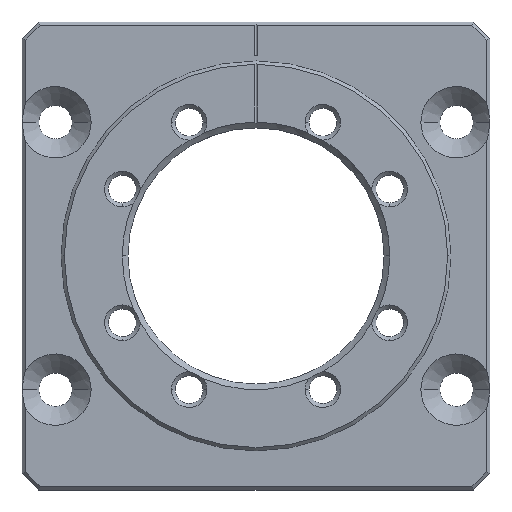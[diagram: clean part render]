
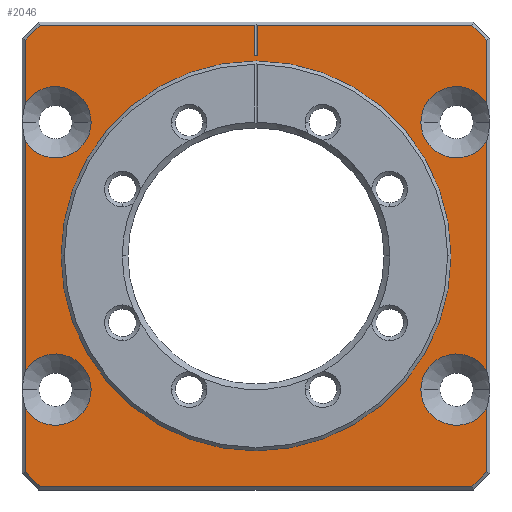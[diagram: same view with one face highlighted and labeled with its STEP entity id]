
A CAD part, top view. The second image highlights one B-rep face of the part: STEP entity #2046.
In plain terms, the highlighted planar face has unit normal (0, 0, 1).
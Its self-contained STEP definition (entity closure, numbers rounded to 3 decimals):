
#533=CARTESIAN_POINT('',(0.,0.,2.5));
#534=DIRECTION('',(0.,0.,1.));
#535=DIRECTION('',(1.,0.,0.));
#536=AXIS2_PLACEMENT_3D('',#533,#534,#535);
#538=CARTESIAN_POINT('',(0.,0.,2.5));
#539=DIRECTION('',(0.,0.,1.));
#540=DIRECTION('',(-1.,0.,0.));
#541=AXIS2_PLACEMENT_3D('',#538,#539,#540);
#543=CARTESIAN_POINT('',(18.,12.,2.5));
#544=DIRECTION('',(0.,0.,-1.));
#545=DIRECTION('',(-1.,0.,0.));
#546=AXIS2_PLACEMENT_3D('',#543,#544,#545);
#548=CARTESIAN_POINT('',(18.,12.,2.5));
#549=DIRECTION('',(0.,0.,-1.));
#550=DIRECTION('',(0.844,-0.537,0.));
#551=AXIS2_PLACEMENT_3D('',#548,#549,#550);
#553=DIRECTION('',(0.,1.,0.));
#554=VECTOR('',#553,20.565);
#555=CARTESIAN_POINT('',(20.7,-10.283,2.5));
#556=LINE('',#555,#554);
#557=CARTESIAN_POINT('',(18.,-12.,2.5));
#558=DIRECTION('',(0.,0.,-1.));
#559=DIRECTION('',(-1.,0.,0.));
#560=AXIS2_PLACEMENT_3D('',#557,#558,#559);
#562=CARTESIAN_POINT('',(18.,-12.,2.5));
#563=DIRECTION('',(0.,0.,-1.));
#564=DIRECTION('',(0.844,-0.537,0.));
#565=AXIS2_PLACEMENT_3D('',#562,#563,#564);
#567=DIRECTION('',(0.,1.,0.));
#568=VECTOR('',#567,5.658);
#569=CARTESIAN_POINT('',(20.7,-19.376,2.5));
#570=LINE('',#569,#568);
#571=DIRECTION('',(0.707,0.707,0.));
#572=VECTOR('',#571,1.873);
#573=CARTESIAN_POINT('',(19.376,-20.7,2.5));
#574=LINE('',#573,#572);
#575=DIRECTION('',(1.,0.,0.));
#576=VECTOR('',#575,38.751);
#577=CARTESIAN_POINT('',(-19.376,-20.7,2.5));
#578=LINE('',#577,#576);
#579=DIRECTION('',(0.707,-0.707,0.));
#580=VECTOR('',#579,1.873);
#581=CARTESIAN_POINT('',(-20.7,-19.376,2.5));
#582=LINE('',#581,#580);
#583=DIRECTION('',(0.,-1.,0.));
#584=VECTOR('',#583,5.658);
#585=CARTESIAN_POINT('',(-20.7,-13.717,2.5));
#586=LINE('',#585,#584);
#587=CARTESIAN_POINT('',(-18.,-12.,2.5));
#588=DIRECTION('',(0.,0.,-1.));
#589=DIRECTION('',(1.,0.,0.));
#590=AXIS2_PLACEMENT_3D('',#587,#588,#589);
#592=CARTESIAN_POINT('',(-18.,-12.,2.5));
#593=DIRECTION('',(0.,0.,-1.));
#594=DIRECTION('',(-0.844,0.537,0.));
#595=AXIS2_PLACEMENT_3D('',#592,#593,#594);
#597=DIRECTION('',(0.,-1.,0.));
#598=VECTOR('',#597,20.565);
#599=CARTESIAN_POINT('',(-20.7,10.283,2.5));
#600=LINE('',#599,#598);
#601=CARTESIAN_POINT('',(-18.,12.,2.5));
#602=DIRECTION('',(0.,0.,-1.));
#603=DIRECTION('',(1.,0.,0.));
#604=AXIS2_PLACEMENT_3D('',#601,#602,#603);
#606=CARTESIAN_POINT('',(-18.,12.,2.5));
#607=DIRECTION('',(0.,0.,-1.));
#608=DIRECTION('',(-0.844,0.537,0.));
#609=AXIS2_PLACEMENT_3D('',#606,#607,#608);
#611=DIRECTION('',(0.,-1.,0.));
#612=VECTOR('',#611,5.658);
#613=CARTESIAN_POINT('',(-20.7,19.376,2.5));
#614=LINE('',#613,#612);
#615=DIRECTION('',(-0.707,-0.707,0.));
#616=VECTOR('',#615,1.873);
#617=CARTESIAN_POINT('',(-19.376,20.7,2.5));
#618=LINE('',#617,#616);
#619=DIRECTION('',(-1.,0.,0.));
#620=VECTOR('',#619,19.226);
#621=CARTESIAN_POINT('',(-0.15,20.7,2.5));
#622=LINE('',#621,#620);
#623=DIRECTION('',(0.,-1.,0.));
#624=VECTOR('',#623,2.7);
#625=CARTESIAN_POINT('',(-0.15,20.7,2.5));
#626=LINE('',#625,#624);
#627=DIRECTION('',(1.,0.,0.));
#628=VECTOR('',#627,0.3);
#629=CARTESIAN_POINT('',(-0.15,18.,2.5));
#630=LINE('',#629,#628);
#631=DIRECTION('',(0.,-1.,0.));
#632=VECTOR('',#631,2.7);
#633=CARTESIAN_POINT('',(0.15,20.7,2.5));
#634=LINE('',#633,#632);
#635=DIRECTION('',(-1.,0.,0.));
#636=VECTOR('',#635,19.226);
#637=CARTESIAN_POINT('',(19.376,20.7,2.5));
#638=LINE('',#637,#636);
#639=DIRECTION('',(-0.707,0.707,0.));
#640=VECTOR('',#639,1.873);
#641=CARTESIAN_POINT('',(20.7,19.376,2.5));
#642=LINE('',#641,#640);
#643=DIRECTION('',(0.,1.,0.));
#644=VECTOR('',#643,5.658);
#645=CARTESIAN_POINT('',(20.7,13.717,2.5));
#646=LINE('',#645,#644);
#656=CARTESIAN_POINT('',(20.7,13.717,2.5));
#662=CARTESIAN_POINT('',(20.7,-13.717,2.5));
#674=CARTESIAN_POINT('',(20.7,-10.283,2.5));
#676=CARTESIAN_POINT('',(20.7,10.283,2.5));
#744=CARTESIAN_POINT('',(-20.7,-13.717,2.5));
#750=CARTESIAN_POINT('',(-20.7,13.717,2.5));
#762=CARTESIAN_POINT('',(-20.7,10.283,2.5));
#764=CARTESIAN_POINT('',(-20.7,-10.283,2.5));
#1218=CARTESIAN_POINT('',(17.5,0.,2.5));
#1219=CARTESIAN_POINT('',(-17.5,0.,2.5));
#1220=VERTEX_POINT('',#1218);
#1221=VERTEX_POINT('',#1219);
#1230=CARTESIAN_POINT('',(-0.15,18.,2.5));
#1231=CARTESIAN_POINT('',(0.15,18.,2.5));
#1232=VERTEX_POINT('',#1230);
#1233=VERTEX_POINT('',#1231);
#1234=CARTESIAN_POINT('',(0.15,20.7,2.5));
#1235=VERTEX_POINT('',#1234);
#1236=CARTESIAN_POINT('',(-0.15,20.7,2.5));
#1237=VERTEX_POINT('',#1236);
#1246=CARTESIAN_POINT('',(-20.7,-19.376,2.5));
#1247=CARTESIAN_POINT('',(-19.376,-20.7,2.5));
#1248=VERTEX_POINT('',#1246);
#1249=VERTEX_POINT('',#1247);
#1252=CARTESIAN_POINT('',(19.376,-20.7,2.5));
#1253=VERTEX_POINT('',#1252);
#1256=CARTESIAN_POINT('',(20.7,-19.376,2.5));
#1257=VERTEX_POINT('',#1256);
#1262=CARTESIAN_POINT('',(20.7,19.376,2.5));
#1263=CARTESIAN_POINT('',(19.376,20.7,2.5));
#1264=VERTEX_POINT('',#1262);
#1265=VERTEX_POINT('',#1263);
#1268=CARTESIAN_POINT('',(-19.376,20.7,2.5));
#1269=CARTESIAN_POINT('',(-20.7,19.376,2.5));
#1270=VERTEX_POINT('',#1268);
#1271=VERTEX_POINT('',#1269);
#1347=VERTEX_POINT('',#656);
#1352=CARTESIAN_POINT('',(14.8,12.,2.5));
#1353=VERTEX_POINT('',#1352);
#1354=VERTEX_POINT('',#676);
#1356=VERTEX_POINT('',#674);
#1361=CARTESIAN_POINT('',(14.8,-12.,2.5));
#1362=VERTEX_POINT('',#1361);
#1363=VERTEX_POINT('',#662);
#1365=VERTEX_POINT('',#744);
#1370=CARTESIAN_POINT('',(-14.8,-12.,2.5));
#1371=VERTEX_POINT('',#1370);
#1372=VERTEX_POINT('',#764);
#1374=VERTEX_POINT('',#762);
#1379=CARTESIAN_POINT('',(-14.8,12.,2.5));
#1380=VERTEX_POINT('',#1379);
#1381=VERTEX_POINT('',#750);
#1987=CARTESIAN_POINT('',(0.,0.,2.5));
#1988=DIRECTION('',(0.,0.,1.));
#1989=DIRECTION('',(1.,0.,0.));
#1990=AXIS2_PLACEMENT_3D('',#1987,#1988,#1989);
#1991=PLANE('',#1990);
#1993=ORIENTED_EDGE('',*,*,#1992,.F.);
#1995=ORIENTED_EDGE('',*,*,#1994,.F.);
#1997=ORIENTED_EDGE('',*,*,#1996,.F.);
#1999=ORIENTED_EDGE('',*,*,#1998,.F.);
#2001=ORIENTED_EDGE('',*,*,#2000,.F.);
#2003=ORIENTED_EDGE('',*,*,#2002,.F.);
#2005=ORIENTED_EDGE('',*,*,#2004,.F.);
#2007=ORIENTED_EDGE('',*,*,#2006,.F.);
#2009=ORIENTED_EDGE('',*,*,#2008,.F.);
#2011=ORIENTED_EDGE('',*,*,#2010,.F.);
#2013=ORIENTED_EDGE('',*,*,#2012,.F.);
#2015=ORIENTED_EDGE('',*,*,#2014,.F.);
#2017=ORIENTED_EDGE('',*,*,#2016,.F.);
#2019=ORIENTED_EDGE('',*,*,#2018,.F.);
#2021=ORIENTED_EDGE('',*,*,#2020,.F.);
#2023=ORIENTED_EDGE('',*,*,#2022,.F.);
#2025=ORIENTED_EDGE('',*,*,#2024,.F.);
#2027=ORIENTED_EDGE('',*,*,#2026,.F.);
#2029=ORIENTED_EDGE('',*,*,#2028,.T.);
#2031=ORIENTED_EDGE('',*,*,#2030,.T.);
#2033=ORIENTED_EDGE('',*,*,#2032,.F.);
#2035=ORIENTED_EDGE('',*,*,#2034,.F.);
#2037=ORIENTED_EDGE('',*,*,#2036,.F.);
#2039=ORIENTED_EDGE('',*,*,#2038,.F.);
#2040=EDGE_LOOP('',(#1993,#1995,#1997,#1999,#2001,#2003,#2005,#2007,#2009,#2011,
#2013,#2015,#2017,#2019,#2021,#2023,#2025,#2027,#2029,#2031,#2033,#2035,#2037,
#2039));
#2041=FACE_OUTER_BOUND('',#2040,.F.);
#2042=ORIENTED_EDGE('',*,*,#1981,.T.);
#2043=ORIENTED_EDGE('',*,*,#1967,.T.);
#2044=EDGE_LOOP('',(#2042,#2043));
#2045=FACE_BOUND('',#2044,.F.);
#2046=ADVANCED_FACE('',(#2041,#2045),#1991,.T.);
#537=CIRCLE('',#536,17.5);
#542=CIRCLE('',#541,17.5);
#547=CIRCLE('',#546,3.2);
#552=CIRCLE('',#551,3.2);
#561=CIRCLE('',#560,3.2);
#566=CIRCLE('',#565,3.2);
#591=CIRCLE('',#590,3.2);
#596=CIRCLE('',#595,3.2);
#605=CIRCLE('',#604,3.2);
#610=CIRCLE('',#609,3.2);
#1967=EDGE_CURVE('',#1221,#1220,#542,.T.);
#1981=EDGE_CURVE('',#1220,#1221,#537,.T.);
#1992=EDGE_CURVE('',#1353,#1347,#547,.T.);
#1994=EDGE_CURVE('',#1354,#1353,#552,.T.);
#1996=EDGE_CURVE('',#1356,#1354,#556,.T.);
#1998=EDGE_CURVE('',#1362,#1356,#561,.T.);
#2000=EDGE_CURVE('',#1363,#1362,#566,.T.);
#2002=EDGE_CURVE('',#1257,#1363,#570,.T.);
#2004=EDGE_CURVE('',#1253,#1257,#574,.T.);
#2006=EDGE_CURVE('',#1249,#1253,#578,.T.);
#2008=EDGE_CURVE('',#1248,#1249,#582,.T.);
#2010=EDGE_CURVE('',#1365,#1248,#586,.T.);
#2012=EDGE_CURVE('',#1371,#1365,#591,.T.);
#2014=EDGE_CURVE('',#1372,#1371,#596,.T.);
#2016=EDGE_CURVE('',#1374,#1372,#600,.T.);
#2018=EDGE_CURVE('',#1380,#1374,#605,.T.);
#2020=EDGE_CURVE('',#1381,#1380,#610,.T.);
#2022=EDGE_CURVE('',#1271,#1381,#614,.T.);
#2024=EDGE_CURVE('',#1270,#1271,#618,.T.);
#2026=EDGE_CURVE('',#1237,#1270,#622,.T.);
#2028=EDGE_CURVE('',#1237,#1232,#626,.T.);
#2030=EDGE_CURVE('',#1232,#1233,#630,.T.);
#2032=EDGE_CURVE('',#1235,#1233,#634,.T.);
#2034=EDGE_CURVE('',#1265,#1235,#638,.T.);
#2036=EDGE_CURVE('',#1264,#1265,#642,.T.);
#2038=EDGE_CURVE('',#1347,#1264,#646,.T.);
